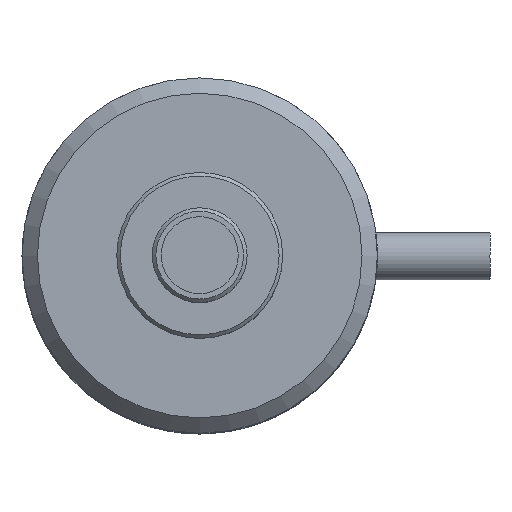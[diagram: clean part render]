
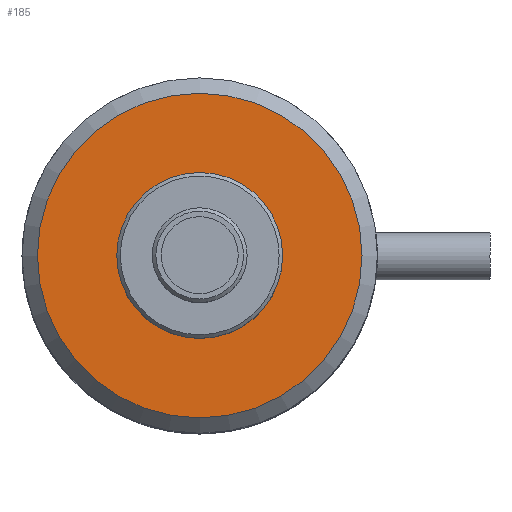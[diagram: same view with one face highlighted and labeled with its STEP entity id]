
A CAD part, top view. The second image highlights one B-rep face of the part: STEP entity #185.
In plain terms, the highlighted planar face has unit normal (0, 0, 1).
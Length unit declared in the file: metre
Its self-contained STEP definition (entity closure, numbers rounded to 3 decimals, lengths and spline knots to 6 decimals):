
#185=ADVANCED_FACE('0:10519',(#395,#396),#397,.T.);
#395=FACE_OUTER_BOUND('',#600,.T.);
#396=FACE_BOUND('',#601,.T.);
#397=PLANE('',#602);
#600=EDGE_LOOP('',(#895));
#601=EDGE_LOOP('',(#896));
#602=AXIS2_PLACEMENT_3D('',#897,#898,#899);
#895=ORIENTED_EDGE('',*,*,#976,.T.);
#896=ORIENTED_EDGE('',*,*,#1026,.F.);
#897=CARTESIAN_POINT('',(0.0,0.0,0.0395));
#898=DIRECTION('',(0.0,0.0,1.0));
#899=DIRECTION('',(1.0,0.0,0.0));
#976=EDGE_CURVE('0:10630',#1105,#1105,#1106,.T.);
#1026=EDGE_CURVE('0:10678',#1179,#1179,#1180,.T.);
#1105=VERTEX_POINT('',#1317);
#1106=CIRCLE('',#1318,0.0137);
#1179=VERTEX_POINT('',#1391);
#1180=CIRCLE('',#1392,0.007);
#1317=CARTESIAN_POINT('',(0.0137,0.0,0.0395));
#1318=AXIS2_PLACEMENT_3D('',#1471,#1472,#1473);
#1391=CARTESIAN_POINT('',(0.007,0.0,0.0395));
#1392=AXIS2_PLACEMENT_3D('',#1546,#1547,#1548);
#1471=CARTESIAN_POINT('',(0.0,0.0,0.0395));
#1472=DIRECTION('',(0.0,0.0,1.0));
#1473=DIRECTION('',(1.0,0.0,-0.0));
#1546=CARTESIAN_POINT('',(0.0,0.0,0.0395));
#1547=DIRECTION('',(0.0,0.0,1.0));
#1548=DIRECTION('',(1.0,0.0,-0.0));
